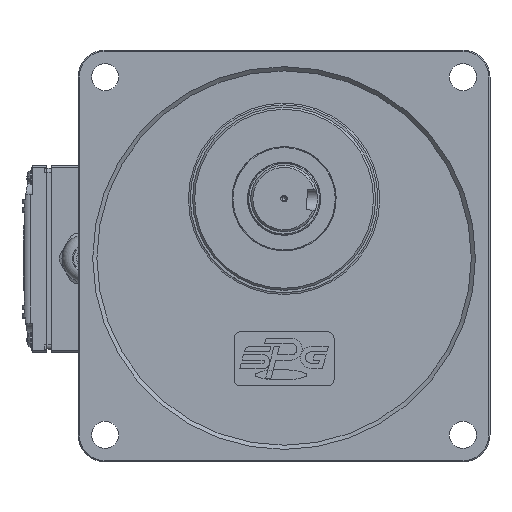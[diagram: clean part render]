
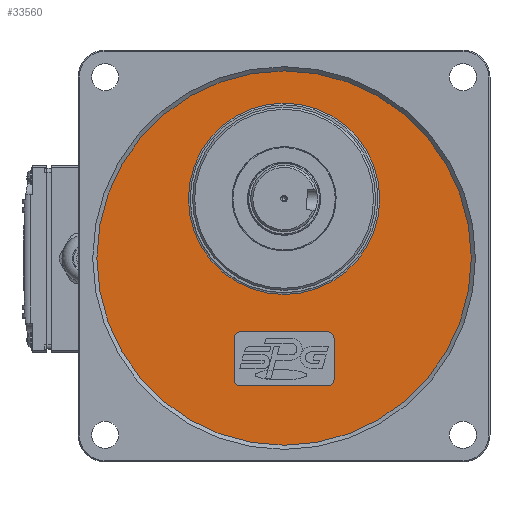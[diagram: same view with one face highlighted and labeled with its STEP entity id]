
A CAD part, top view. The second image highlights one B-rep face of the part: STEP entity #33560.
In plain terms, the highlighted planar face has unit normal (0, 0, 1).
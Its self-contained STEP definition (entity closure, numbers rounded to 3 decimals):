
#1249=LINE('',#55382,#3646);
#1250=LINE('',#55386,#3647);
#1251=LINE('',#55390,#3648);
#1252=LINE('',#55394,#3649);
#3646=VECTOR('',#41618,20.);
#3647=VECTOR('',#41621,42.);
#3648=VECTOR('',#41624,20.);
#3649=VECTOR('',#41627,42.);
#6311=FACE_BOUND('',#8955,.T.);
#6312=FACE_BOUND('',#8956,.T.);
#6958=FACE_OUTER_BOUND('',#8954,.T.);
#8954=EDGE_LOOP('',(#23213));
#8955=EDGE_LOOP('',(#23214,#23215,#23216,#23217,#23218,#23219,#23220,#23221));
#8956=EDGE_LOOP('',(#23222));
#11157=CIRCLE('',#36075,46.);
#11158=CIRCLE('',#36077,90.);
#11159=CIRCLE('',#36078,3.);
#11160=CIRCLE('',#36079,3.);
#11161=CIRCLE('',#36080,3.);
#11162=CIRCLE('',#36081,3.);
#13603=VERTEX_POINT('',#55374);
#13604=VERTEX_POINT('',#55378);
#13605=VERTEX_POINT('',#55380);
#13606=VERTEX_POINT('',#55381);
#13607=VERTEX_POINT('',#55383);
#13608=VERTEX_POINT('',#55385);
#13609=VERTEX_POINT('',#55387);
#13610=VERTEX_POINT('',#55389);
#13611=VERTEX_POINT('',#55391);
#13612=VERTEX_POINT('',#55393);
#17168=EDGE_CURVE('',#13603,#13603,#11157,.T.);
#17169=EDGE_CURVE('',#13604,#13604,#11158,.T.);
#17170=EDGE_CURVE('',#13605,#13606,#1249,.T.);
#17171=EDGE_CURVE('',#13607,#13606,#11159,.T.);
#17172=EDGE_CURVE('',#13607,#13608,#1250,.T.);
#17173=EDGE_CURVE('',#13609,#13608,#11160,.T.);
#17174=EDGE_CURVE('',#13609,#13610,#1251,.T.);
#17175=EDGE_CURVE('',#13611,#13610,#11161,.T.);
#17176=EDGE_CURVE('',#13611,#13612,#1252,.T.);
#17177=EDGE_CURVE('',#13605,#13612,#11162,.T.);
#23213=ORIENTED_EDGE('',*,*,#17169,.T.);
#23214=ORIENTED_EDGE('',*,*,#17170,.T.);
#23215=ORIENTED_EDGE('',*,*,#17171,.F.);
#23216=ORIENTED_EDGE('',*,*,#17172,.T.);
#23217=ORIENTED_EDGE('',*,*,#17173,.F.);
#23218=ORIENTED_EDGE('',*,*,#17174,.T.);
#23219=ORIENTED_EDGE('',*,*,#17175,.F.);
#23220=ORIENTED_EDGE('',*,*,#17176,.T.);
#23221=ORIENTED_EDGE('',*,*,#17177,.F.);
#23222=ORIENTED_EDGE('',*,*,#17168,.F.);
#30897=PLANE('',#36076);
#33560=ADVANCED_FACE('',(#6958,#6311,#6312),#30897,.F.);
#36075=AXIS2_PLACEMENT_3D('',#55376,#41612,#41613);
#36076=AXIS2_PLACEMENT_3D('',#55377,#41614,#41615);
#36077=AXIS2_PLACEMENT_3D('',#55379,#41616,#41617);
#36078=AXIS2_PLACEMENT_3D('',#55384,#41619,#41620);
#36079=AXIS2_PLACEMENT_3D('',#55388,#41622,#41623);
#36080=AXIS2_PLACEMENT_3D('',#55392,#41625,#41626);
#36081=AXIS2_PLACEMENT_3D('',#55395,#41628,#41629);
#41612=DIRECTION('center_axis',(0.,0.,1.));
#41613=DIRECTION('ref_axis',(-1.,0.,0.));
#41614=DIRECTION('center_axis',(0.,0.,-1.));
#41615=DIRECTION('ref_axis',(-1.,0.,0.));
#41616=DIRECTION('center_axis',(0.,0.,1.));
#41617=DIRECTION('ref_axis',(-1.,0.,0.));
#41618=DIRECTION('',(0.,1.,0.));
#41619=DIRECTION('center_axis',(0.,0.,1.));
#41620=DIRECTION('ref_axis',(-0.707,0.707,0.));
#41621=DIRECTION('',(1.,0.,0.));
#41622=DIRECTION('center_axis',(0.,0.,1.));
#41623=DIRECTION('ref_axis',(0.707,0.707,0.));
#41624=DIRECTION('',(0.,-1.,0.));
#41625=DIRECTION('center_axis',(0.,0.,1.));
#41626=DIRECTION('ref_axis',(0.707,-0.707,0.));
#41627=DIRECTION('',(-1.,0.,0.));
#41628=DIRECTION('center_axis',(0.,0.,1.));
#41629=DIRECTION('ref_axis',(-0.707,-0.707,0.));
#55374=CARTESIAN_POINT('',(-46.,28.5,94.));
#55376=CARTESIAN_POINT('Origin',(0.,28.5,94.));
#55377=CARTESIAN_POINT('Origin',(0.,0.,94.));
#55378=CARTESIAN_POINT('',(90.,0.,94.));
#55379=CARTESIAN_POINT('Origin',(0.,0.,94.));
#55380=CARTESIAN_POINT('',(-24.,-58.5,94.));
#55381=CARTESIAN_POINT('',(-24.,-38.5,94.));
#55382=CARTESIAN_POINT('',(-24.,-58.5,94.));
#55383=CARTESIAN_POINT('',(-21.,-35.5,94.));
#55384=CARTESIAN_POINT('Origin',(-21.,-38.5,94.));
#55385=CARTESIAN_POINT('',(21.,-35.5,94.));
#55386=CARTESIAN_POINT('',(-21.,-35.5,94.));
#55387=CARTESIAN_POINT('',(24.,-38.5,94.));
#55388=CARTESIAN_POINT('Origin',(21.,-38.5,94.));
#55389=CARTESIAN_POINT('',(24.,-58.5,94.));
#55390=CARTESIAN_POINT('',(24.,-38.5,94.));
#55391=CARTESIAN_POINT('',(21.,-61.5,94.));
#55392=CARTESIAN_POINT('Origin',(21.,-58.5,94.));
#55393=CARTESIAN_POINT('',(-21.,-61.5,94.));
#55394=CARTESIAN_POINT('',(21.,-61.5,94.));
#55395=CARTESIAN_POINT('Origin',(-21.,-58.5,94.));
